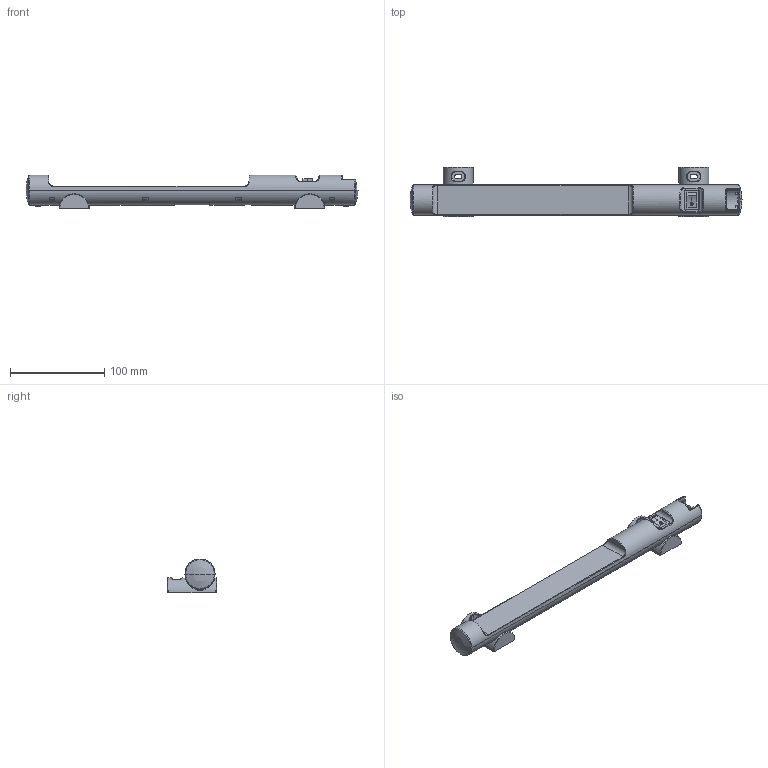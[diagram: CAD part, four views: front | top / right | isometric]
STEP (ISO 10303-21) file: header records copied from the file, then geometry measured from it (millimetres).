
FILE_DESCRIPTION(/* description */ (''),/* implementation_level */ '2;1');
FILE_NAME(/* name */ '8-4.stp',/* time_stamp */ '2023-08-04T17:31:05+08:00',/* author */ (''),/* organization */ (''),/* preprocessor_version */ 'ST-DEVELOPER v16.7',/* originating_system */ 'SIEMENS PLM Software NX 12.0',/* authorisation */ '');
FILE_SCHEMA (('AP203_CONFIGURATION_CONTROLLED_3D_DESIGN_OF_MECHANICAL_PARTS_AND_ASSEMBLIES_MIM_LF { 1 0 10303 403 2 1 2}'));
Length unit declared in the file: millimetre
Products named in the file (1): 142649C79uetf
Bounding box: 352.19 x 52 x 36 mm (x, y, z)
Volume: 82213.9 mm3; surface area: 98305.2 mm2
Topology: 5 solids, 5 shells, 2228 faces, 6267 edges, 4146 vertices
Faces by surface type: plane 1774, cylinder 256, bspline 136, torus 24, cone 20, sphere 10, extrusion 8
Full cylindrical faces by diameter (mm): 1.2 x16, 3.2 x2, 4.2 x2, 5 x2, 6.7 x2, 9 x2, 23.099 x2, 24.999 x2, 25 x2, 27.8 x2
Entity records: 78322 total; most frequent: CARTESIAN_POINT 21312, ORIENTED_EDGE 12382, DIRECTION 11151, EDGE_CURVE 6191, VERTEX_POINT 4120, VECTOR 4041, LINE 4033, AXIS2_PLACEMENT_3D 3555
